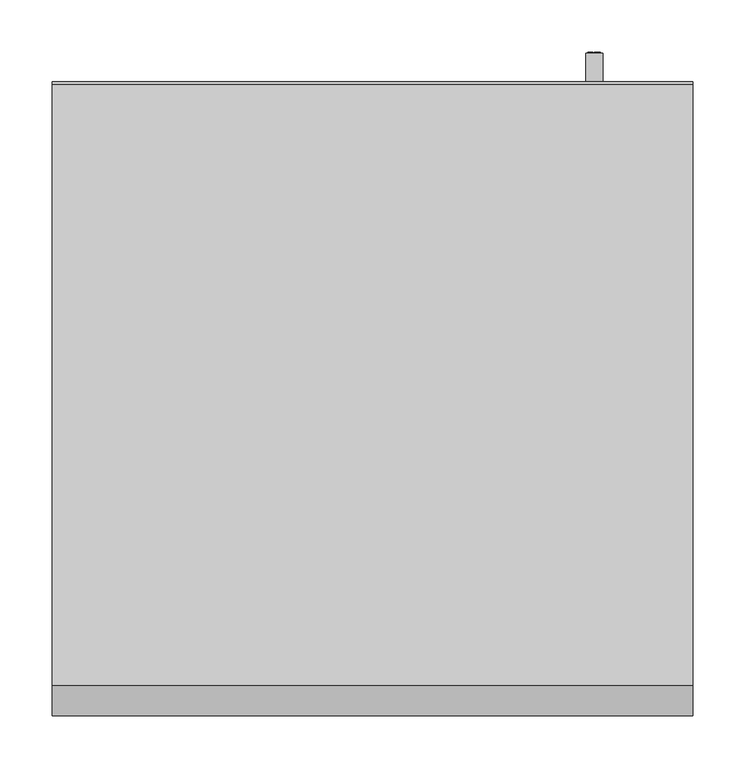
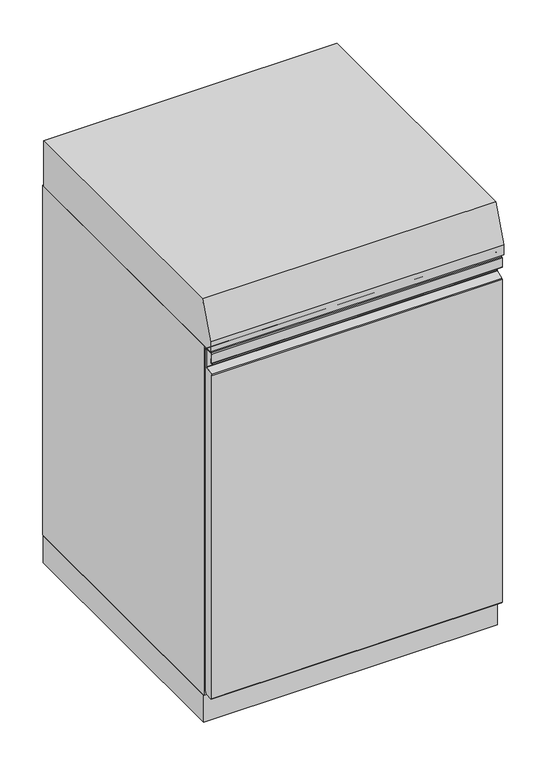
"""IFC4 building model written with IfcOpenShell, lengths in millimetres: proxy geometry, 12922340_D_ORD1224WBL : 331B2DRW_D_12922340_ORD1224WBL."""

from ifc_helpers import new_model, si_unit, point, frame, frame_2d, origin, origin_with_axes, place, context, project, spatial, polyline, circle_curve, trimmed, segment, composite_curve, outline, extrude, faceted_brep, source, transform, mapped, element, save


def specialty_equipment_d600704f(model_context):
    return source(origin(), model_context, "Body", "SolidModel", [
        extrude(outline(composite_curve([segment(polyline([(2.6999996, 823.5), (2.6999996, 814.5999985)]), True, "CONTINUOUS"), segment(trimmed(circle_curve(frame_2d((1.5999996, 814.5999985)), 1.1), [point((2.6999996, 814.5999985))], [point((0.4999996, 814.5999985))], False, "CARTESIAN"), True, "CONTINUOUS"), segment(polyline([(0.4999996, 814.5999985), (0.4999996, 835.0000001)]), True, "CONTINUOUS"), segment(trimmed(circle_curve(frame_2d((2.4999995, 835.0000001)), 1.9999999), [point((0.4999996, 835.0000001))], [point((2.4999995, 837.0))], False, "CARTESIAN"), True, "CONTINUOUS"), segment(polyline([(2.4999995, 837.0), (21.0, 837.0)]), True, "CONTINUOUS"), segment(trimmed(circle_curve(frame_2d((21.0, 835.0)), 2.0), [point((21.0, 837.0))], [point((23.0, 835.0))], False, "CARTESIAN"), True, "CONTINUOUS"), segment(polyline([(23.0, 835.0), (23.0, 78.1000214), (19.5, 72.5), (2.4999995, 72.5), (0.4999996, 74.4999999), (0.4999996, 787.6206147)]), True, "CONTINUOUS"), segment(trimmed(circle_curve(frame_2d((2.4999996, 787.6206147)), 2.0), [point((0.4999996, 787.6206147))], [point((1.8159593, 789.5))], False, "CARTESIAN"), True, "CONTINUOUS"), segment(polyline([(1.8159593, 789.5), (18.8147235, 795.6870442)]), True, "CONTINUOUS"), segment(trimmed(circle_curve(frame_2d((18.8147235, 796.3723207)), 0.6852765), [point((18.8147235, 795.6870442))], [point((19.5, 796.3723207))], True, "CARTESIAN"), True, "CONTINUOUS"), segment(polyline([(19.5, 796.3723207), (19.5, 833.5), (20.5, 833.5), (20.5, 835.0)]), True, "CONTINUOUS"), segment(trimmed(circle_curve(frame_2d((19.5, 835.0)), 1.0), [point((20.5, 835.0))], [point((19.5, 836.0))], True, "CARTESIAN"), True, "CONTINUOUS"), segment(polyline([(19.5, 836.0), (2.4999995, 836.0)]), True, "CONTINUOUS"), segment(trimmed(circle_curve(frame_2d((2.4999995, 835.0000001)), 0.9999999), [point((2.4999995, 836.0))], [point((1.4999996, 835.0000001))], True, "CARTESIAN"), True, "CONTINUOUS"), segment(polyline([(1.4999996, 835.0000001), (1.4999996, 823.5), (2.6999996, 823.5)]), True, "CONTINUOUS")], self_intersect=False)), frame((-303.5, 0.0, 0.0), z_axis=(1.0, 0.0, 0.0), x_axis=(0.0, 1.0, 0.0)), (0.0, 0.0, 1.0), 607.0),
        extrude(outline(polyline([(28.370519, 941.5), (603.9999916, 941.5), (603.9999916, 841.5), (0.0, 841.5), (0.0, 863.5526396), (28.370519, 941.5)])), frame((-306.75, 0.0, 0.0), z_axis=(1.0, 0.0, 0.0), x_axis=(0.0, 1.0, 0.0)), (0.0, 0.0, 1.0), 613.5),
        extrude(outline(composite_curve([segment(trimmed(circle_curve(frame_2d((230.25, 73.5499878)), 30.0268488), [point((200.2231512, 73.5499878))], [point((260.2768488, 73.5499878))], False, "CARTESIAN"), True, "CONTINUOUS"), segment(trimmed(circle_curve(frame_2d((230.25, 73.5499878)), 30.0268488), [point((260.2768488, 73.5499878))], [point((200.2231512, 73.5499878))], False, "CARTESIAN"), True, "CONTINUOUS")], self_intersect=False)), origin_with_axes(), (0.0, 0.0, 1.0), 69.5),
        extrude(outline(composite_curve([segment(trimmed(circle_curve(frame_2d((-230.25, 73.5499878)), 30.0268488), [point((-260.2768488, 73.5499878))], [point((-200.2231512, 73.5499878))], False, "CARTESIAN"), True, "CONTINUOUS"), segment(trimmed(circle_curve(frame_2d((-230.25, 73.5499878)), 30.0268488), [point((-200.2231512, 73.5499878))], [point((-260.2768488, 73.5499878))], False, "CARTESIAN"), True, "CONTINUOUS")], self_intersect=False)), origin_with_axes(), (0.0, 0.0, 1.0), 69.5),
        extrude(outline(composite_curve([segment(trimmed(circle_curve(frame_2d((230.25, 552.5864926)), 30.0), [point((200.25, 552.5864926))], [point((260.25, 552.5864926))], False, "CARTESIAN"), True, "CONTINUOUS"), segment(trimmed(circle_curve(frame_2d((230.25, 552.5864926)), 30.0), [point((260.25, 552.5864926))], [point((200.25, 552.5864926))], False, "CARTESIAN"), True, "CONTINUOUS")], self_intersect=False)), origin_with_axes(), (0.0, 0.0, 1.0), 69.5),
        extrude(outline(composite_curve([segment(trimmed(circle_curve(frame_2d((-230.25, 552.5864926)), 30.0), [point((-260.25, 552.5864926))], [point((-200.25, 552.5864926))], False, "CARTESIAN"), True, "CONTINUOUS"), segment(trimmed(circle_curve(frame_2d((-230.25, 552.5864926)), 30.0), [point((-200.25, 552.5864926))], [point((-260.25, 552.5864926))], False, "CARTESIAN"), True, "CONTINUOUS")], self_intersect=False)), origin_with_axes(), (0.0, 0.0, 1.0), 69.5),
        extrude(outline(composite_curve([segment(trimmed(circle_curve(frame_2d((25.0028687, -278.25)), 25.0), [point((25.0028687, -303.25))], [point((25.0028687, -253.25))], False, "CARTESIAN"), True, "CONTINUOUS"), segment(trimmed(circle_curve(frame_2d((25.0028687, -278.25)), 25.0), [point((25.0028687, -253.25))], [point((25.0028687, -303.25))], False, "CARTESIAN"), True, "CONTINUOUS")], self_intersect=False)), frame((0.0, 61.0499878, 0.0), z_axis=(0.0, 1.0, 0.0), x_axis=(0.0, 0.0, 1.0)), (0.0, 0.0, 1.0), 25.0),
        extrude(outline(composite_curve([segment(trimmed(circle_curve(frame_2d((25.0028687, -278.25)), 25.0), [point((25.0028687, -303.25))], [point((25.0028687, -253.25))], False, "CARTESIAN"), True, "CONTINUOUS"), segment(trimmed(circle_curve(frame_2d((25.0028687, -278.25)), 25.0), [point((25.0028687, -253.25))], [point((25.0028687, -303.25))], False, "CARTESIAN"), True, "CONTINUOUS")], self_intersect=False)), frame((0.0, 540.0864926, 0.0), z_axis=(0.0, 1.0, 0.0), x_axis=(0.0, 0.0, 1.0)), (0.0, 0.0, 1.0), 25.0),
        extrude(outline(composite_curve([segment(trimmed(circle_curve(frame_2d((25.0028687, 278.25)), 25.0), [point((25.0028687, 303.25))], [point((25.0028687, 253.25))], False, "CARTESIAN"), True, "CONTINUOUS"), segment(trimmed(circle_curve(frame_2d((25.0028687, 278.25)), 25.0), [point((25.0028687, 253.25))], [point((25.0028687, 303.25))], False, "CARTESIAN"), True, "CONTINUOUS")], self_intersect=False)), frame((0.0, 61.0499878, 0.0), z_axis=(0.0, 1.0, 0.0), x_axis=(0.0, 0.0, 1.0)), (0.0, 0.0, 1.0), 25.0),
        extrude(outline(composite_curve([segment(trimmed(circle_curve(frame_2d((25.0029118, 278.2964698)), 25.0), [point((25.0029118, 303.2964698))], [point((25.0029118, 253.2964698))], False, "CARTESIAN"), True, "CONTINUOUS"), segment(trimmed(circle_curve(frame_2d((25.0029118, 278.2964698)), 25.0), [point((25.0029118, 253.2964698))], [point((25.0029118, 303.2964698))], False, "CARTESIAN"), True, "CONTINUOUS")], self_intersect=False)), frame((0.0, 540.0499878, 0.0), z_axis=(0.0, 1.0, 0.0), x_axis=(0.0, 0.0, 1.0)), (0.0, 0.0, 1.0), 25.0),
        extrude(outline(polyline([(239.0, 80.3156114), (-239.0, 80.3156114), (-239.0, 519.9678007), (239.0, 519.9678007), (239.0, 80.3156114)])), frame((0.0, 0.0, 571.875), z_axis=(0.0, 0.0, 1.0), x_axis=(1.0, 0.0, 0.0)), (0.0, 0.0, 1.0), 5.4660034),
        extrude(outline(polyline([(239.0, 80.3156114), (-239.0, 80.3156114), (-239.0, 519.9678007), (239.0, 519.9678007), (239.0, 80.3156114)])), frame((0.0, 0.0, 412.8530273), z_axis=(0.0, 0.0, 1.0), x_axis=(1.0, 0.0, 0.0)), (0.0, 0.0, 1.0), 5.46698),
        extrude(outline(polyline([(255.4000244, -232.8450296), (255.4000244, -239.2120696), (191.7124433, -237.4264408), (191.7124433, -216.0), (237.7786004, -216.0), (255.4000244, -232.8450296)])), frame((0.0, 81.0153108, 0.0), z_axis=(0.0, 1.0, 0.0), x_axis=(0.0, 0.0, 1.0)), (0.0, 0.0, 1.0), 265.9184554),
        faceted_brep([(227.1084529, 81.0153108, 255.4000244), (216.0, 81.0153108, 237.7786004), (216.0, 81.0153108, 220.5), (238.1326589, 81.0153108, 220.5), (238.9888284, 81.0153108, 255.4000244), (216.0, 81.0153108, 191.7124433), (237.4264408, 81.0153108, 191.7124433), (237.4825593, 81.0153108, 194.0), (216.0, 81.0153108, 194.0), (227.1084529, 346.9337663, 255.4000244), (238.9888284, 346.9337663, 255.4000244), (237.4264408, 346.9337663, 191.7124433), (216.0, 346.9337663, 191.7124433), (216.0, 346.9337663, 237.7786004), (238.1326589, 94.5332008, 220.5), (237.4825593, 94.5332008, 194.0), (216.0, 94.5332008, 194.0), (216.0, 94.5332008, 220.5), (238.5, 94.5332008, 220.5), (238.5, 77.0153108, 220.5), (238.5, 77.0153108, 194.0), (238.5, 94.5332008, 194.0), (-238.5, 94.5332008, 220.5), (-238.5, 94.5332008, 194.0), (-238.5, 77.0153108, 194.0), (-238.5, 77.0153108, 220.5)], [[[0, 1, 2, 3, 4]], [[5, 6, 7, 8]], [[9, 10, 11, 12, 13]], [[0, 4, 10, 9]], [[11, 10, 4, 3, 14, 15, 7, 6]], [[13, 12, 5, 8, 16, 17, 2, 1]], [[1, 0, 9, 13]], [[18, 19, 20, 21]], [[22, 23, 24, 25]], [[19, 18, 14, 3, 2, 17, 22, 25]], [[20, 19, 25, 24]], [[21, 20, 24, 23, 16, 8, 7, 15]], [[18, 21, 15, 14]], [[23, 22, 17, 16]], [[6, 5, 12, 11]]]),
        extrude(outline(polyline([(340.0518156, 205.5), (344.0278288, 201.5239868), (344.0278288, 196.677002), (329.0518156, 196.677002), (329.0518156, 201.5), (333.0518156, 205.5), (340.0518156, 205.5)])), frame((-216.0, 0.0, 0.0), z_axis=(1.0, 0.0, 0.0), x_axis=(0.0, 1.0, 0.0)), (0.0, 0.0, 1.0), 432.0),
        extrude(outline(polyline([(278.0153108, 205.5), (281.991324, 201.5239868), (281.991324, 196.677002), (267.0153108, 196.677002), (267.0153108, 201.5), (271.0153108, 205.5), (278.0153108, 205.5)])), frame((-216.0, 0.0, 0.0), z_axis=(1.0, 0.0, 0.0), x_axis=(0.0, 1.0, 0.0)), (0.0, 0.0, 1.0), 432.0),
        extrude(outline(polyline([(216.0153108, 205.5), (219.991324, 201.5239868), (219.991324, 196.677002), (205.0153108, 196.677002), (205.0153108, 201.5), (209.0153108, 205.5), (216.0153108, 205.5)])), frame((-216.0, 0.0, 0.0), z_axis=(1.0, 0.0, 0.0), x_axis=(0.0, 1.0, 0.0)), (0.0, 0.0, 1.0), 432.0),
        extrude(outline(polyline([(154.0153108, 205.5), (157.991324, 201.5239868), (157.991324, 196.677002), (143.0153108, 196.677002), (143.0153108, 201.5), (147.0153108, 205.5), (154.0153108, 205.5)])), frame((-216.0, 0.0, 0.0), z_axis=(1.0, 0.0, 0.0), x_axis=(0.0, 1.0, 0.0)), (0.0, 0.0, 1.0), 432.0),
        faceted_brep([(306.75, 607.0365048, 841.5), (306.75, 607.0365048, 69.5), (-306.75, 607.0365048, 69.5), (-306.75, 607.0365048, 841.5), (306.75, 23.0, 841.5), (-306.75, 23.0, 841.5), (-306.75, 23.0, 69.5), (306.75, 23.0, 69.5), (-280.75, 23.0, 695.5), (280.75, 23.0, 695.5), (280.75, 23.0, 100.5), (-280.75, 23.0, 100.5), (280.75, 520.0365048, 695.5), (-280.75, 520.0365048, 695.5), (-280.75, 520.0365048, 100.5), (280.75, 520.0365048, 100.5)], [[[0, 1, 2, 3]], [[4, 5, 6, 7], [8, 9, 10, 11]], [[0, 3, 5, 4]], [[3, 2, 6, 5]], [[2, 1, 7, 6]], [[1, 0, 4, 7]], [[12, 13, 14, 15]], [[13, 12, 9, 8]], [[14, 13, 8, 11]], [[15, 14, 11, 10]], [[12, 15, 10, 9]]]),
        extrude(outline(polyline([(280.75, 520.0365048), (280.75, 346.9337663), (-280.75, 346.9337663), (-280.75, 520.0365048), (280.75, 520.0365048)])), frame((0.0, 0.0, 113.1370239), z_axis=(0.0, 0.0, 1.0), x_axis=(1.0, 0.0, 0.0)), (0.0, 0.0, 1.0), 151.6759644),
        extrude(outline(polyline([(306.75, 604.1365048), (306.75, 24.0), (-306.75, 24.0), (-306.75, 604.1365048), (306.75, 604.1365048)]), holes=[polyline([(-298.75, 39.0), (298.75, 38.5000004), (298.75, 589.1365048), (-298.75, 589.1365048), (-298.75, 39.0)])]), frame((0.0, 0.0, 9.5), z_axis=(0.0, 0.0, 1.0), x_axis=(1.0, 0.0, 0.0)), (0.0, 0.0, 1.0), 60.0),
        extrude(outline(composite_curve([segment(trimmed(circle_curve(frame_2d((56.3049927, 212.75)), 8.0), [point((56.3049927, 204.75))], [point((56.3049927, 220.75))], False, "CARTESIAN"), True, "CONTINUOUS"), segment(trimmed(circle_curve(frame_2d((56.3049927, 212.75)), 8.0), [point((56.3049927, 220.75))], [point((56.3049927, 204.75))], False, "CARTESIAN"), True, "CONTINUOUS")], self_intersect=False)), frame((0.0, 604.1365048, 0.0), z_axis=(0.0, 1.0, 0.0), x_axis=(0.0, 0.0, 1.0)), (0.0, 0.0, 1.0), 30.0),
        extrude(outline(polyline([(53.1210263, 218.6518082), (61.1575311, 218.6518082), (61.1575311, 212.8755704), (60.152968, 212.8755704), (60.152968, 217.6472451), (57.7671306, 217.6472451), (57.7671306, 213.1267112), (56.7625675, 213.1267112), (56.7625675, 217.6472451), (54.1255894, 217.6472451), (54.1255894, 212.75), (53.1210263, 212.75), (53.1210263, 218.6518082)])), frame((0.0, 634.1365048, 0.0), z_axis=(0.0, 1.0, 0.0), x_axis=(0.0, 0.0, 1.0)), (0.0, 0.0, 1.0), 1.0),
        extrude(outline(polyline([(53.1210263, 211.2431553), (61.1575311, 211.2431553), (61.1575311, 210.2385922), (54.1255894, 210.2385922), (54.1255894, 206.2203398), (53.1210263, 206.2203398), (53.1210263, 211.2431553)])), frame((0.0, 634.1365048, 0.0), z_axis=(0.0, 1.0, 0.0), x_axis=(0.0, 0.0, 1.0)), (0.0, 0.0, 1.0), 1.0),
    ])


if __name__ == "__main__":
    model = new_model("IFC4")
    model_context = context("Model", 3, world=origin())
    ifc_project = project(units=[si_unit("LENGTHUNIT", "METRE", prefix="MILLI")], contexts=[model_context])
    site = spatial("IfcSite", under=ifc_project)
    building = spatial("IfcBuilding", under=site)
    placement = place(None, origin())
    specialty_equipment_shape = specialty_equipment_d600704f(model_context)
    element("IfcBuildingElementProxy", 1, Name="12922340_D_ORD1224WBL : 331B2DRW_D_12922340_ORD1224WBL", ObjectType="12922340_D_ORD1224WBL : 331B2DRW_D_12922340_ORD1224WBL", at=placement, inside=building, context=model_context, shape_type="MappedRepresentation", body=[
        mapped(specialty_equipment_shape, transform((0.0, 0.0, 0.0), x_axis=(1.0, 0.0, 0.0), y_axis=(0.0, 1.0, 0.0), z_axis=(0.0, 0.0, 1.0))),
    ])
    save(model, "model.ifc")
